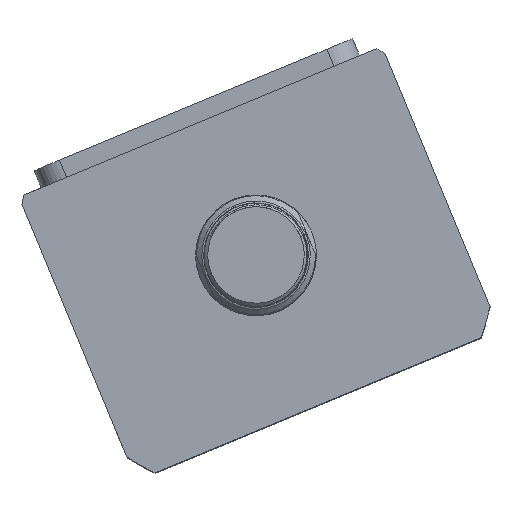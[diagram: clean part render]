
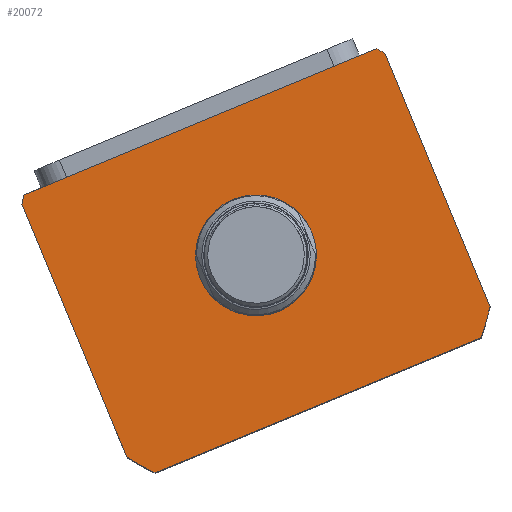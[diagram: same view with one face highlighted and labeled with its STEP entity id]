
A CAD part, top view. The second image highlights one B-rep face of the part: STEP entity #20072.
In plain terms, the highlighted planar face has unit normal (0, 0, 1) as drawn and (0, 0, -1) by its records, which use the part's own axes.
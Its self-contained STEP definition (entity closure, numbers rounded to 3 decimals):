
#101 = DIRECTION ( 'NONE',  ( 0., 0., 1. ) ) ;
#177 = CARTESIAN_POINT ( 'NONE',  ( 17.5, 2.5, 0. ) ) ;
#461 = CIRCLE ( 'NONE', #26100, 69.5 ) ;
#630 = CARTESIAN_POINT ( 'NONE',  ( 57., 42.265, 0. ) ) ;
#929 = VECTOR ( 'NONE', #23455, 1000. ) ;
#1601 = CARTESIAN_POINT ( 'NONE',  ( -57., 44.5, 0. ) ) ;
#1743 = VERTEX_POINT ( 'NONE', #3263 ) ;
#1873 = VERTEX_POINT ( 'NONE', #2897 ) ;
#1951 = DIRECTION ( 'NONE',  ( 1., 0., 0. ) ) ;
#2897 = CARTESIAN_POINT ( 'NONE',  ( -55.374, 44.5, 0. ) ) ;
#2938 = LINE ( 'NONE', #8029, #14485 ) ;
#3257 = DIRECTION ( 'NONE',  ( -1., 0., 0. ) ) ;
#3263 = CARTESIAN_POINT ( 'NONE',  ( 55.374, 44.5, 0. ) ) ;
#3881 = CARTESIAN_POINT ( 'NONE',  ( 0., 2.5, 0. ) ) ;
#4813 = EDGE_CURVE ( 'NONE', #8019, #23120, #17338, .T. ) ;
#5257 = ORIENTED_EDGE ( 'NONE', *, *, #27162, .F. ) ;
#5432 = CARTESIAN_POINT ( 'NONE',  ( 0., 0., 0. ) ) ;
#5554 = LINE ( 'NONE', #1601, #21464 ) ;
#5576 = CIRCLE ( 'NONE', #17156, 17.5 ) ;
#5627 = VECTOR ( 'NONE', #3257, 1000. ) ;
#5837 = DIRECTION ( 'NONE',  ( 1., 0., 0. ) ) ;
#6066 = VERTEX_POINT ( 'NONE', #19301 ) ;
#6074 = DIRECTION ( 'NONE',  ( 1., 0., 0. ) ) ;
#6296 = LINE ( 'NONE', #18430, #5627 ) ;
#6953 = CARTESIAN_POINT ( 'NONE',  ( 0., 2.5, 0. ) ) ;
#7636 = AXIS2_PLACEMENT_3D ( 'NONE', #13080, #101, #15249 ) ;
#7951 = CIRCLE ( 'NONE', #15186, 69.5 ) ;
#8019 = VERTEX_POINT ( 'NONE', #19866 ) ;
#8029 = CARTESIAN_POINT ( 'NONE',  ( -57., -44.5, 0. ) ) ;
#8305 = CARTESIAN_POINT ( 'NONE',  ( 57., 44.5, 0. ) ) ;
#8716 = CARTESIAN_POINT ( 'NONE',  ( 0., 2.5, 0. ) ) ;
#9140 = DIRECTION ( 'NONE',  ( 1., 0., 0. ) ) ;
#10211 = DIRECTION ( 'NONE',  ( 0., -1., 0. ) ) ;
#10448 = VERTEX_POINT ( 'NONE', #14720 ) ;
#10900 = DIRECTION ( 'NONE',  ( 1., 0., 0. ) ) ;
#11602 = AXIS2_PLACEMENT_3D ( 'NONE', #5432, #18428, #24952 ) ;
#12656 = DIRECTION ( 'NONE',  ( 0., 0., 1. ) ) ;
#13080 = CARTESIAN_POINT ( 'NONE',  ( 0., 2.5, 0. ) ) ;
#13338 = ORIENTED_EDGE ( 'NONE', *, *, #4813, .F. ) ;
#14190 = EDGE_CURVE ( 'NONE', #25211, #8019, #2938, .T. ) ;
#14453 = EDGE_CURVE ( 'NONE', #23120, #25503, #23947, .T. ) ;
#14485 = VECTOR ( 'NONE', #5837, 1000. ) ;
#14720 = CARTESIAN_POINT ( 'NONE',  ( -57., -37.265, 0. ) ) ;
#14927 = DIRECTION ( 'NONE',  ( 0., 0., 1. ) ) ;
#15039 = EDGE_CURVE ( 'NONE', #1743, #1873, #6296, .T. ) ;
#15186 = AXIS2_PLACEMENT_3D ( 'NONE', #6953, #22094, #9140 ) ;
#15249 = DIRECTION ( 'NONE',  ( 1., 0., 0. ) ) ;
#15366 = FACE_BOUND ( 'NONE', #20700, .T. ) ;
#16437 = CARTESIAN_POINT ( 'NONE',  ( 57., -37.265, 0. ) ) ;
#17156 = AXIS2_PLACEMENT_3D ( 'NONE', #27908, #14927, #1951 ) ;
#17159 = ORIENTED_EDGE ( 'NONE', *, *, #20316, .F. ) ;
#17338 = CIRCLE ( 'NONE', #7636, 69.5 ) ;
#17702 = AXIS2_PLACEMENT_3D ( 'NONE', #25612, #12656, #27804 ) ;
#17762 = ORIENTED_EDGE ( 'NONE', *, *, #25134, .F. ) ;
#18362 = EDGE_CURVE ( 'NONE', #1873, #6066, #7951, .T. ) ;
#18428 = DIRECTION ( 'NONE',  ( 0., 0., 1. ) ) ;
#18430 = CARTESIAN_POINT ( 'NONE',  ( -57., 44.5, 0. ) ) ;
#18442 = ORIENTED_EDGE ( 'NONE', *, *, #21304, .T. ) ;
#19062 = DIRECTION ( 'NONE',  ( 0., 0., 1. ) ) ;
#19301 = CARTESIAN_POINT ( 'NONE',  ( -57., 42.265, 0. ) ) ;
#19760 = FACE_OUTER_BOUND ( 'NONE', #19896, .T. ) ;
#19866 = CARTESIAN_POINT ( 'NONE',  ( 51.198, -44.5, 0. ) ) ;
#19896 = EDGE_LOOP ( 'NONE', ( #17762, #27240, #13338, #22935, #17159, #5257, #22908, #27348 ) ) ;
#20072 = ADVANCED_FACE ( 'NONE', ( #15366, #19760 ), #22767, .F. ) ;
#20169 = AXIS2_PLACEMENT_3D ( 'NONE', #8716, #23873, #10900 ) ;
#20316 = EDGE_CURVE ( 'NONE', #10448, #25211, #461, .T. ) ;
#20522 = CIRCLE ( 'NONE', #17702, 69.5 ) ;
#20700 = EDGE_LOOP ( 'NONE', ( #18442, #24159 ) ) ;
#20804 = CARTESIAN_POINT ( 'NONE',  ( -17.5, 2.5, 0. ) ) ;
#21304 = EDGE_CURVE ( 'NONE', #26828, #24881, #27371, .T. ) ;
#21464 = VECTOR ( 'NONE', #10211, 1000. ) ;
#22094 = DIRECTION ( 'NONE',  ( 0., 0., 1. ) ) ;
#22767 = PLANE ( 'NONE',  #11602 ) ;
#22908 = ORIENTED_EDGE ( 'NONE', *, *, #18362, .F. ) ;
#22935 = ORIENTED_EDGE ( 'NONE', *, *, #14190, .F. ) ;
#23120 = VERTEX_POINT ( 'NONE', #16437 ) ;
#23455 = DIRECTION ( 'NONE',  ( 0., 1., 0. ) ) ;
#23627 = CARTESIAN_POINT ( 'NONE',  ( -51.198, -44.5, 0. ) ) ;
#23873 = DIRECTION ( 'NONE',  ( 0., 0., 1. ) ) ;
#23947 = LINE ( 'NONE', #8305, #929 ) ;
#24159 = ORIENTED_EDGE ( 'NONE', *, *, #25669, .T. ) ;
#24881 = VERTEX_POINT ( 'NONE', #20804 ) ;
#24952 = DIRECTION ( 'NONE',  ( 1., 0., 0. ) ) ;
#25134 = EDGE_CURVE ( 'NONE', #25503, #1743, #20522, .T. ) ;
#25211 = VERTEX_POINT ( 'NONE', #23627 ) ;
#25503 = VERTEX_POINT ( 'NONE', #630 ) ;
#25612 = CARTESIAN_POINT ( 'NONE',  ( 0., 2.5, 0. ) ) ;
#25669 = EDGE_CURVE ( 'NONE', #24881, #26828, #5576, .T. ) ;
#26100 = AXIS2_PLACEMENT_3D ( 'NONE', #3881, #19062, #6074 ) ;
#26828 = VERTEX_POINT ( 'NONE', #177 ) ;
#27162 = EDGE_CURVE ( 'NONE', #6066, #10448, #5554, .T. ) ;
#27240 = ORIENTED_EDGE ( 'NONE', *, *, #14453, .F. ) ;
#27348 = ORIENTED_EDGE ( 'NONE', *, *, #15039, .F. ) ;
#27371 = CIRCLE ( 'NONE', #20169, 17.5 ) ;
#27804 = DIRECTION ( 'NONE',  ( 1., 0., 0. ) ) ;
#27908 = CARTESIAN_POINT ( 'NONE',  ( 0., 2.5, 0. ) ) ;
